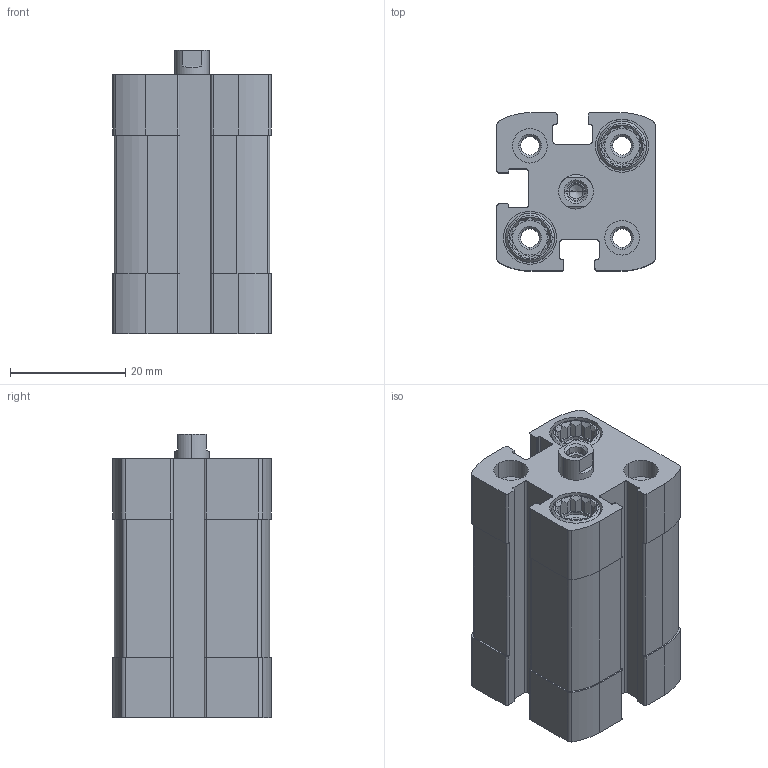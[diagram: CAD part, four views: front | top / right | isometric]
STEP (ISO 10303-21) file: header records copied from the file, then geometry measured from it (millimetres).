
FILE_DESCRIPTION (( 'STEP AP203' ), '1' );
FILE_NAME ('CCN12-10F.STEP', '2017-03-23T18:00:28', ( '' ), ( '' ), 'SwSTEP 2.0', 'SolidWorks 2016', '' );
FILE_SCHEMA (( 'CONFIG_CONTROL_DESIGN' ));
Length unit declared in the file: millimetre
Products named in the file (3): CCN12-10F_(KS); CCN12-10F; CCN12-10F---(Z)
Assembly tree (2 placements, depth 2):
  CCN12-10F
    CCN12-10F---(Z)
    CCN12-10F_(KS)
Bounding box: 27.5 x 27.5 x 49.2 mm (x, y, z)
Volume: 24525.7 mm3; surface area: 13296.1 mm2
Topology: 2 solids, 2 shells, 363 faces, 942 edges, 617 vertices
Faces by surface type: plane 187, cylinder 134, cone 42
Entity records: 11541 total; most frequent: CARTESIAN_POINT 2219, DIRECTION 1900, ORIENTED_EDGE 1880, EDGE_CURVE 940, AXIS2_PLACEMENT_3D 690, VERTEX_POINT 617, LINE 520, VECTOR 520
